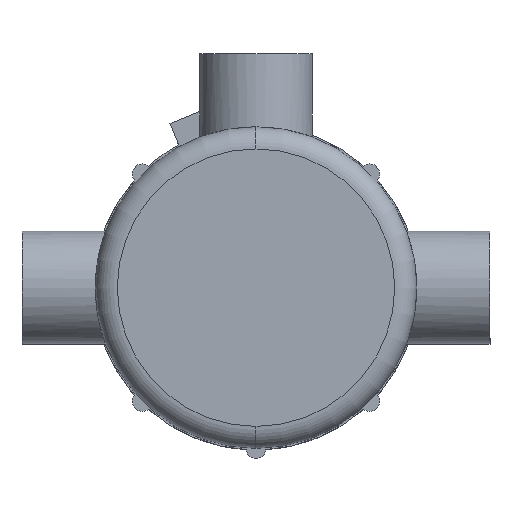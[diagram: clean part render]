
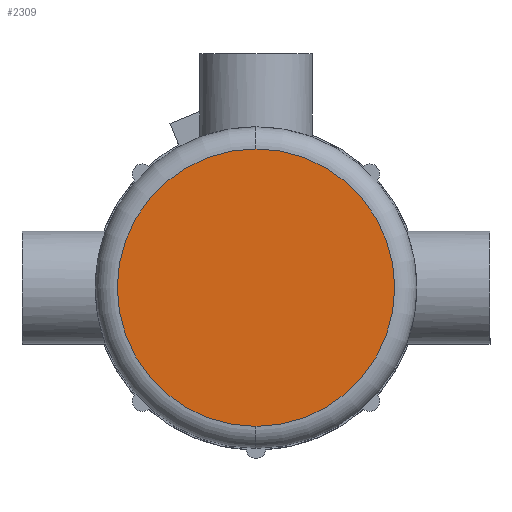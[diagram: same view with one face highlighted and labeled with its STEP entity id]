
A CAD part, front view. The second image highlights one B-rep face of the part: STEP entity #2309.
In plain terms, the highlighted planar face has unit normal (0, -1, 0).
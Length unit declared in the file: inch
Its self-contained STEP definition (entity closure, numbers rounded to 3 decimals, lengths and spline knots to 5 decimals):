
#156 = ORIENTED_EDGE ( 'NONE', *, *, #2351, .T. ) ;
#404 = CARTESIAN_POINT ( 'NONE',  ( 0., 0., -1.575 ) ) ;
#488 = DIRECTION ( 'NONE',  ( 0., 1., 0. ) ) ;
#599 = AXIS2_PLACEMENT_3D ( 'NONE', #4012, #1591, #4421 ) ;
#920 = CIRCLE ( 'NONE', #599, 1.575 ) ;
#949 = CARTESIAN_POINT ( 'NONE',  ( 0., 0., 0. ) ) ;
#996 = CARTESIAN_POINT ( 'NONE',  ( 0., 0., 1.575 ) ) ;
#1365 = DIRECTION ( 'NONE',  ( 0., 0., -1. ) ) ;
#1591 = DIRECTION ( 'NONE',  ( 0., -1., 0. ) ) ;
#1771 = EDGE_LOOP ( 'NONE', ( #3934, #156 ) ) ;
#2212 = VERTEX_POINT ( 'NONE', #404 ) ;
#2309 = ADVANCED_FACE ( 'NONE', ( #2328 ), #4514, .F. ) ;
#2328 = FACE_OUTER_BOUND ( 'NONE', #1771, .T. ) ;
#2351 = EDGE_CURVE ( 'NONE', #4565, #2212, #4341, .T. ) ;
#2524 = CARTESIAN_POINT ( 'NONE',  ( 0., 0., 0. ) ) ;
#2925 = AXIS2_PLACEMENT_3D ( 'NONE', #2524, #488, #3329 ) ;
#3183 = AXIS2_PLACEMENT_3D ( 'NONE', #949, #3775, #1365 ) ;
#3329 = DIRECTION ( 'NONE',  ( 0., 0., -1. ) ) ;
#3645 = EDGE_CURVE ( 'NONE', #2212, #4565, #920, .T. ) ;
#3775 = DIRECTION ( 'NONE',  ( 0., -1., 0. ) ) ;
#3934 = ORIENTED_EDGE ( 'NONE', *, *, #3645, .T. ) ;
#4012 = CARTESIAN_POINT ( 'NONE',  ( 0., 0., 0. ) ) ;
#4341 = CIRCLE ( 'NONE', #3183, 1.575 ) ;
#4421 = DIRECTION ( 'NONE',  ( 0., 0., -1. ) ) ;
#4514 = PLANE ( 'NONE',  #2925 ) ;
#4565 = VERTEX_POINT ( 'NONE', #996 ) ;
